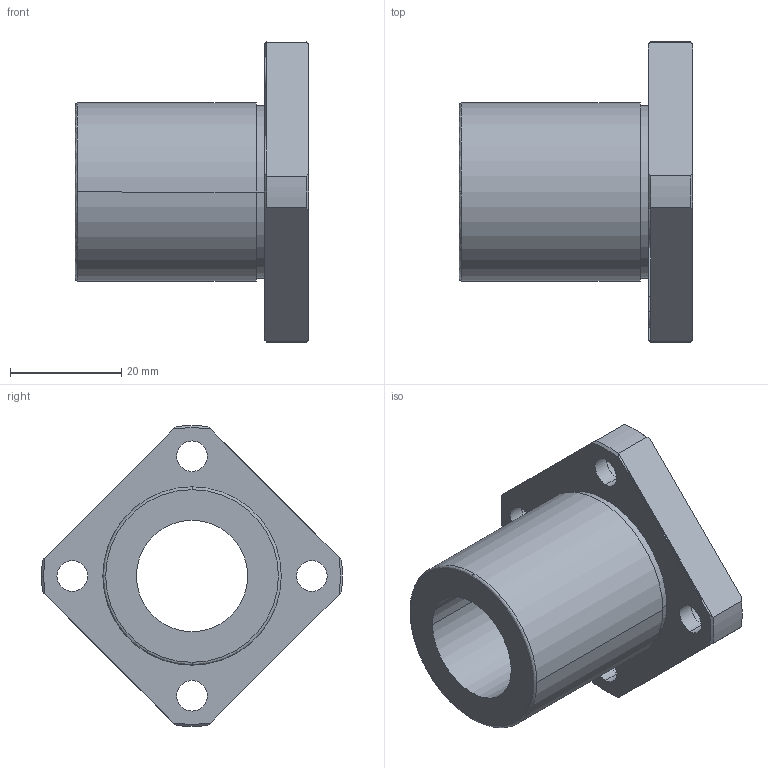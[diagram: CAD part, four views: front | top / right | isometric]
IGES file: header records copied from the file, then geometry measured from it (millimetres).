
Start section: 3D InterOp IGES (Version 21 0 1), Spatial Corp. Copyright (c) 1999-2007.
Global section: file name: NF-20VUU.igs; native system: Spatial Corp.; preprocessor: 3D InterOp GENERIC/IGES 3.0; author: Noname; organization: Noname; date: 20220308.154136; units: millimetre
Bounding box: 42 x 53.98 x 53.97 mm (x, y, z)
Surface area: 10813.7 mm2 (no closed solid volume)
Topology: 0 solids, 0 shells, 51 faces, 256 edges, 256 vertices
Faces by surface type: revolution 39, extrusion 12
